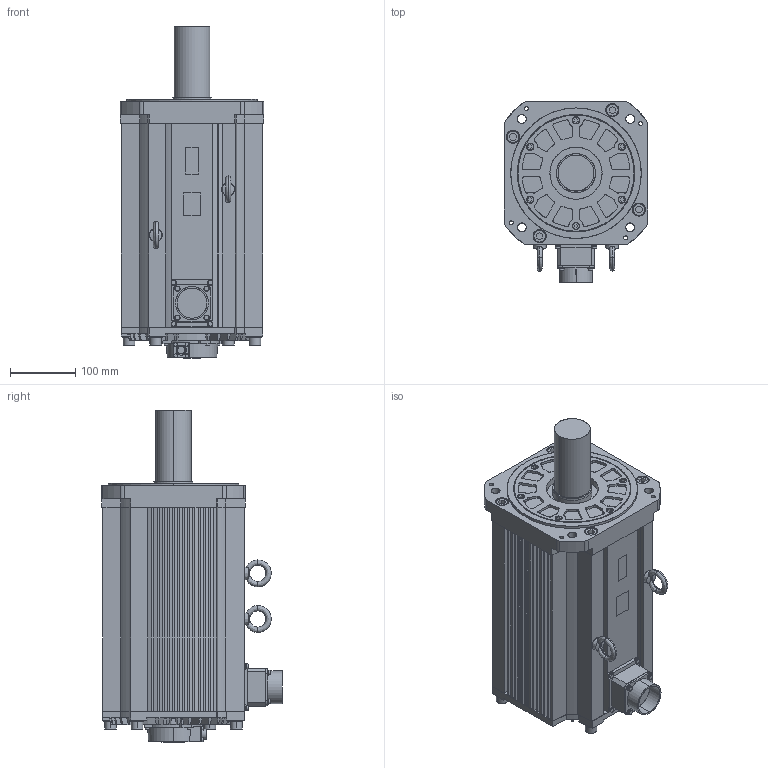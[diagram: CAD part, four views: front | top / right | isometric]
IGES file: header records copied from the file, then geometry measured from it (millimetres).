
Start section: SolidWorks IGES file using analytic representation for surfaces
Global section: file name: D:\YASKAWA\sgmgv_1e__a21.IGS; native system: SolidWorks 2006 by SolidWorks Corporation; preprocessor: SolidWorks 2006 by SolidWorks Corporation; author: yamanouchi; date: 100818.143036; units: millimetre
Bounding box: 220 x 277.08 x 509.1 mm (x, y, z)
Surface area: 729638.7 mm2 (no closed solid volume)
Topology: 0 solids, 0 shells, 1232 faces, 13933 edges, 13933 vertices
Faces by surface type: bspline 776, revolution 456
